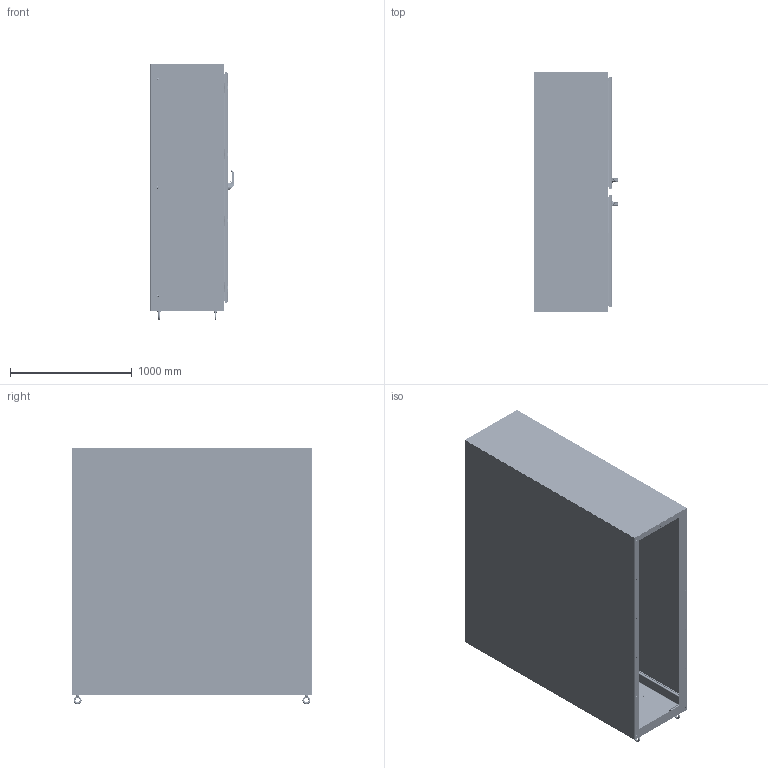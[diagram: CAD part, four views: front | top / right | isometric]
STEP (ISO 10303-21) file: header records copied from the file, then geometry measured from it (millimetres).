
FILE_DESCRIPTION((''),'2;1');
FILE_NAME('MODEL-462_ASM','2026-04-28T14:54:29',('andrew.knowlton'),('SAGINAW CONTROL & ENGINEERING'),'CREO PARAMETRIC BY PTC INC, 2021284','CREO PARAMETRIC BY PTC INC, 2021284','');
FILE_SCHEMA(('AUTOMOTIVE_DESIGN { 1 0 10303 214 1 1 1 1 }'));
Length unit declared in the file: inch
Products named in the file (97): MODEL-462-L-SD; MODEL-462-TP; MODEL-462-R-SD; MODEL-462-BTM; MODEL-462-RH-DR; 100837; 100957_SCREW_MTG; 100957_PADLOCK_CATCH; 100957_SCREW_LARGE; 100957_INSERT_SHAFT; 100957_INSERT_PH; 100957_GASKET; 100957_O-RING; 100957_BASE; 100957_SPRING; 100957_HANDLE; 100957_CAM_SHAFT; 100957_HANDLE_ASM; 100957_CAM_ADAPTER; 100957_EARTH_NUT; 100957_FLANGE_NUT; 100957_CAM_NUT; 100957_ASM; 102236; 100030; 102236_ASM; MODEL-462-ROD-RH-UPR; 128146; 128145; 128144; 102482; MODEL-462-ROD-RH-UPR_ASM; 128143; 100882; 112504; MODEL-462-ROD-RH-LWR; MODEL-462-ROD-RH-LWR_ASM; MODEL-462-PR-GSKT-RH; 128258; 128258_ASM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
Assembly tree (238 placements, depth 5):
  MODEL-462_ASM
    MODEL-462-L-SD
    MODEL-462-TP
    MODEL-462-R-SD
    MODEL-462-BTM
    MODEL-462-RH-DOOR-ASSY_ASM
      MODEL-462-RH-DR
      100837  x3
      100957_ASM
        100957_SCREW_MTG
        100957_PADLOCK_CATCH
        100957_SCREW_LARGE  x2
        100957_INSERT_SHAFT
        100957_INSERT_PH
        100957_GASKET
        100957_O-RING
        100957_BASE
        100957_SPRING
        100957_HANDLE_ASM
          100957_HANDLE
          100957_CAM_SHAFT
        100957_CAM_ADAPTER
        100957_EARTH_NUT
        100957_FLANGE_NUT
        100957_CAM_NUT
      102236_ASM
        102236
        100030  x2
      MODEL-462-ROD-RH-UPR_ASM
        MODEL-462-ROD-RH-UPR
        128146
        128145
        128144
        102482  x2
      128143  x2
      100882  x10
      112504  x2
      MODEL-462-ROD-RH-LWR_ASM
        MODEL-462-ROD-RH-LWR
        128146
        128145
        128144
        102482  x2
      MODEL-462-PR-GSKT-RH
      128258_ASM  x4
        128258
      126395  x4
      102483  x4
      101383_ASM  x4
        101383
        101383-STUD
      101221  x4
      125597
    MODEL-462-LH-DOOR-ASSY_ASM
      MODEL-462-LH-DR
      100837  x3
      100957_ASM
        100957_SCREW_MTG
        100957_PADLOCK_CATCH
        100957_SCREW_LARGE  x2
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Bounding box: 687.67 x 1974.85 x 2106.8 mm (x, y, z)
Volume: 48921305.8 mm3; surface area: 35081422.8 mm2
Topology: 281 solids, 281 shells, 26730 faces, 67698 edges, 41599 vertices
Faces by surface type: plane 9110, cylinder 7252, bspline 5721, torus 2159, cone 1305, sphere 802, extrusion 381
Entity records: 607553 total; most frequent: CARTESIAN_POINT 279249, ORIENTED_EDGE 49770, DIRECTION 46026, PRESENTATION_STYLE_ASSIGNMENT 25759, STYLED_ITEM 25729, CURVE_STYLE 24885, EDGE_CURVE 24885, AXIS2_PLACEMENT_3D 16936
